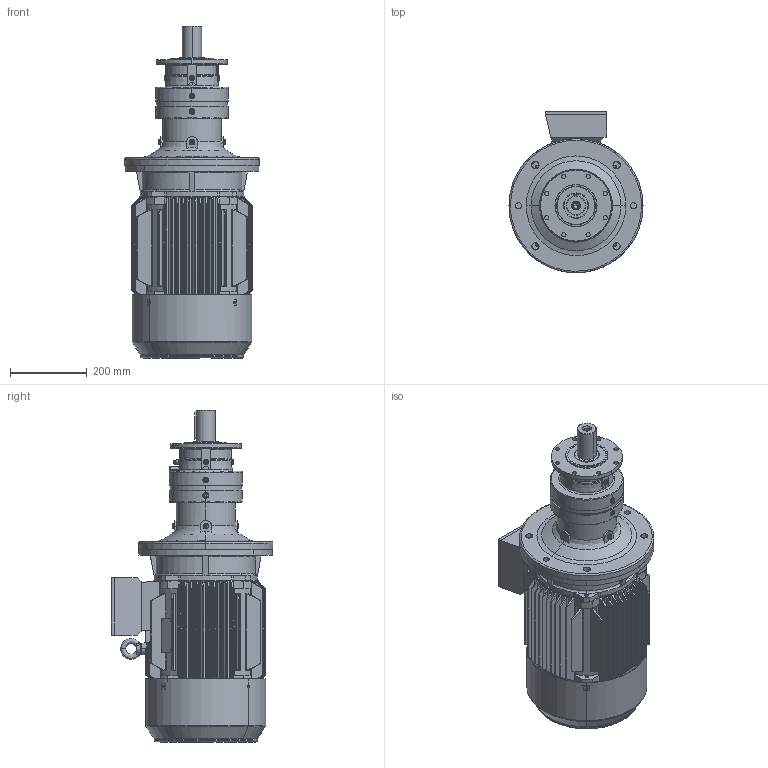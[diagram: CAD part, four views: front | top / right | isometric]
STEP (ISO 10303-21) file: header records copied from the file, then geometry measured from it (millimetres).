
FILE_DESCRIPTION (( 'STEP AP203' ), '1' );
FILE_NAME ('PVL-1101L-HS160M-4.STEP', '2019-05-27T08:28:27', ( '' ), ( '' ), 'SwSTEP 2.0', 'SolidWorks 2012', '' );
FILE_SCHEMA (( 'CONFIG_CONTROL_DESIGN' ));
Products named in the file (17): M3-160M-FF-B5; PVL-1101L-HS160M-4; M3-HS160M-FF-B5; Y2-160M+À+¿(B5)_-++ñ; Y2-160_shaft; +ª+§ªiY2-160ñ»ª­_-++ñ; Y2-160-180ñ»ª­®+_-++ñ; +¦i-MN2-160_-++ñ; Y2-160ñ»ª­+¿_-++ñ; Y2-160-2ª¥--®+_-++ñ; PNL_1101L_0_0_A16_B5_ML7A_FL1A_0_0_0_0_0_0_0_0_0_0_0_M1; Y2-160-4Ý¾6Ý¾8-ª+---®+_-++ñ; FL1A; Eyebolts GB_GB_FASTENER_SCREWS_FRS M12; ML7A; 11160B5; P11
Assembly tree (16 placements, depth 5):
  PVL-1101L-HS160M-4
    PNL_1101L_0_0_A16_B5_ML7A_FL1A_0_0_0_0_0_0_0_0_0_0_0_M1
      P11
      11160B5
      ML7A
      FL1A
    M3-HS160M-FF-B5
      M3-160M-FF-B5
        Eyebolts GB_GB_FASTENER_SCREWS_FRS M12
        Y2-160-4Ý¾6Ý¾8-ª+---®+_-++ñ
        +¦i-MN2-160_-++ñ
        Y2-160-2ª¥--®+_-++ñ
        +ª+§ªiY2-160ñ»ª­_-++ñ
          Y2-160-180ñ»ª­®+_-++ñ
          Y2-160ñ»ª­+¿_-++ñ
        Y2-160M+À+¿(B5)_-++ñ
        Y2-160_shaft
Bounding box: 350 x 422 x 866.5 mm (x, y, z)
Volume: 15390785.3 mm3; surface area: 2780946.6 mm2
Topology: 16 solids, 20 shells, 2203 faces, 5658 edges, 3623 vertices
Faces by surface type: cylinder 883, plane 721, bspline 306, cone 188, torus 65, sphere 40
Entity records: 116443 total; most frequent: CARTESIAN_POINT 64896, ORIENTED_EDGE 11216, DIRECTION 8960, EDGE_CURVE 5608, VERTEX_POINT 3608, AXIS2_PLACEMENT_3D 3412, EDGE_LOOP 2504, FACE_OUTER_BOUND 2203
